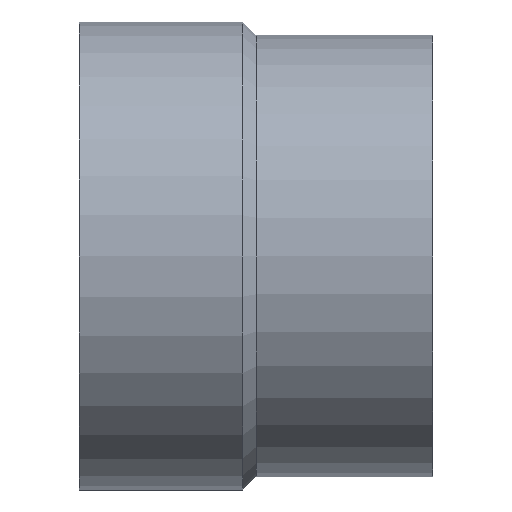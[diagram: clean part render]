
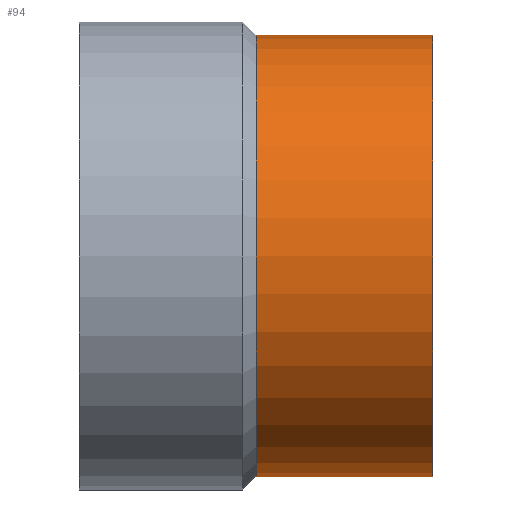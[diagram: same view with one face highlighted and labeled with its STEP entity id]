
A CAD part, front view. The second image highlights one B-rep face of the part: STEP entity #94.
In plain terms, the highlighted cylindrical face has radius 100 mm (diameter 200 mm), a full revolution.
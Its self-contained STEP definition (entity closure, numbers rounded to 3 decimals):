
#13=CYLINDRICAL_SURFACE($,#109,100.);
#21=FACE_BOUND($,#40,.T.);
#29=FACE_OUTER_BOUND($,#39,.T.);
#39=EDGE_LOOP($,(#74));
#40=EDGE_LOOP($,(#75));
#49=CIRCLE($,#108,100.);
#50=CIRCLE($,#110,100.);
#56=VERTEX_POINT($,#157);
#57=VERTEX_POINT($,#160);
#63=EDGE_CURVE($,#56,#56,#49,.T.);
#64=EDGE_CURVE($,#57,#57,#50,.T.);
#74=ORIENTED_EDGE($,*,*,#64,.F.);
#75=ORIENTED_EDGE($,*,*,#63,.T.);
#94=ADVANCED_FACE($,(#29,#21),#13,.T.);
#108=AXIS2_PLACEMENT_3D($,#158,#132,#133);
#109=AXIS2_PLACEMENT_3D($,#159,#134,#135);
#110=AXIS2_PLACEMENT_3D($,#161,#136,#137);
#132=DIRECTION('center_axis',(1.,0.,0.));
#133=DIRECTION('ref_axis',(0.,1.,0.));
#134=DIRECTION('center_axis',(1.,0.,0.));
#135=DIRECTION('ref_axis',(0.,1.,0.));
#136=DIRECTION('center_axis',(1.,0.,0.));
#137=DIRECTION('ref_axis',(0.,1.,0.));
#157=CARTESIAN_POINT('',(80.,100.,0.));
#158=CARTESIAN_POINT('Origin',(80.,0.,0.));
#159=CARTESIAN_POINT('Origin',(120.,0.,0.));
#160=CARTESIAN_POINT('',(160.,100.,0.));
#161=CARTESIAN_POINT('Origin',(160.,0.,0.));
